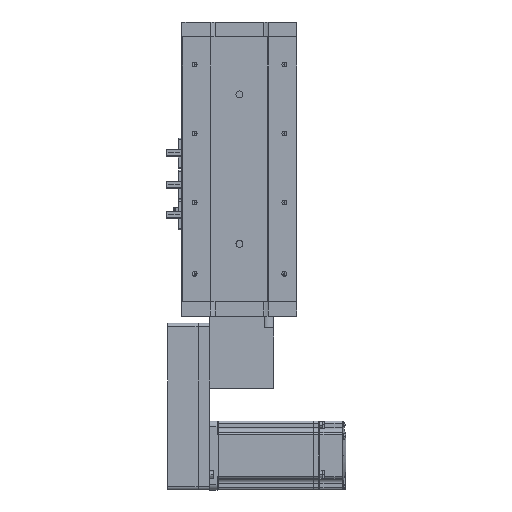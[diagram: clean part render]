
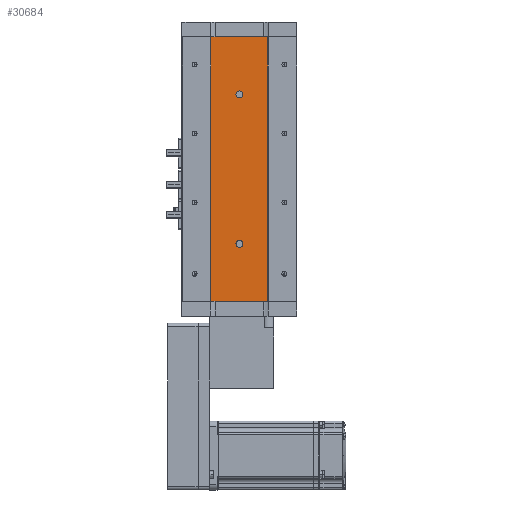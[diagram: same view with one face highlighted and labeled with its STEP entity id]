
A CAD part, left-side view. The second image highlights one B-rep face of the part: STEP entity #30684.
In plain terms, the highlighted planar face has unit normal (-1, 0, 0).
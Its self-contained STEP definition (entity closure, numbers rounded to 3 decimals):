
#1759 = PLANE ( 'NONE',  #56936 ) ;
#2526 = VECTOR ( 'NONE', #28652, 1000. ) ;
#2783 = EDGE_CURVE ( 'NONE', #11221, #6771, #55354, .T. ) ;
#3345 = ORIENTED_EDGE ( 'NONE', *, *, #48417, .F. ) ;
#4174 = CIRCLE ( 'NONE', #21252, 3. ) ;
#5185 = EDGE_CURVE ( 'NONE', #6771, #11221, #38597, .T. ) ;
#5368 = AXIS2_PLACEMENT_3D ( 'NONE', #50318, #22449, #55007 ) ;
#5435 = DIRECTION ( 'NONE',  ( 0., -1., 0. ) ) ;
#6326 = AXIS2_PLACEMENT_3D ( 'NONE', #22890, #55443, #27596 ) ;
#6771 = VERTEX_POINT ( 'NONE', #38582 ) ;
#7185 = CARTESIAN_POINT ( 'NONE',  ( -18.926, 0., 183. ) ) ;
#7893 = ORIENTED_EDGE ( 'NONE', *, *, #19644, .F. ) ;
#8590 = ORIENTED_EDGE ( 'NONE', *, *, #31290, .T. ) ;
#8874 = ORIENTED_EDGE ( 'NONE', *, *, #5185, .F. ) ;
#11195 = EDGE_LOOP ( 'NONE', ( #7893, #59515 ) ) ;
#11221 = VERTEX_POINT ( 'NONE', #7185 ) ;
#12269 = ORIENTED_EDGE ( 'NONE', *, *, #2783, .F. ) ;
#14948 = CARTESIAN_POINT ( 'NONE',  ( -18.926, 24.785, 230. ) ) ;
#15080 = EDGE_CURVE ( 'NONE', #59934, #36744, #32134, .T. ) ;
#16135 = LINE ( 'NONE', #33280, #40896 ) ;
#16743 = CIRCLE ( 'NONE', #26181, 3. ) ;
#17308 = EDGE_LOOP ( 'NONE', ( #12269, #8874 ) ) ;
#18518 = FACE_BOUND ( 'NONE', #11195, .T. ) ;
#19644 = EDGE_CURVE ( 'NONE', #27670, #28917, #4174, .T. ) ;
#20564 = VECTOR ( 'NONE', #30089, 1000. ) ;
#20942 = EDGE_LOOP ( 'NONE', ( #35348, #3345, #24431, #8590 ) ) ;
#21252 = AXIS2_PLACEMENT_3D ( 'NONE', #49325, #21390, #53990 ) ;
#21390 = DIRECTION ( 'NONE',  ( -1., 0., 0. ) ) ;
#22449 = DIRECTION ( 'NONE',  ( -1., 0., 0. ) ) ;
#22890 = CARTESIAN_POINT ( 'NONE',  ( -18.926, 0., 180. ) ) ;
#23075 = CARTESIAN_POINT ( 'NONE',  ( -18.926, 0., 47. ) ) ;
#23787 = CARTESIAN_POINT ( 'NONE',  ( -18.926, 0., 50. ) ) ;
#24431 = ORIENTED_EDGE ( 'NONE', *, *, #15080, .F. ) ;
#25083 = EDGE_CURVE ( 'NONE', #28917, #27670, #16743, .T. ) ;
#25101 = DIRECTION ( 'NONE',  ( 1., 0., 0. ) ) ;
#25237 = VERTEX_POINT ( 'NONE', #39015 ) ;
#26181 = AXIS2_PLACEMENT_3D ( 'NONE', #23787, #56335, #28456 ) ;
#27596 = DIRECTION ( 'NONE',  ( 0., 0., 1. ) ) ;
#27670 = VERTEX_POINT ( 'NONE', #45774 ) ;
#28456 = DIRECTION ( 'NONE',  ( 0., 0., 1. ) ) ;
#28652 = DIRECTION ( 'NONE',  ( 0., 0., -1. ) ) ;
#28917 = VERTEX_POINT ( 'NONE', #23075 ) ;
#30089 = DIRECTION ( 'NONE',  ( 0., 0., -1. ) ) ;
#30484 = CARTESIAN_POINT ( 'NONE',  ( -18.926, -24.785, 230. ) ) ;
#30684 = ADVANCED_FACE ( 'NONE', ( #18518, #41841, #54248 ), #1759, .F. ) ;
#31290 = EDGE_CURVE ( 'NONE', #59934, #45937, #32956, .T. ) ;
#32134 = LINE ( 'NONE', #56192, #52555 ) ;
#32956 = LINE ( 'NONE', #34746, #20564 ) ;
#32987 = DIRECTION ( 'NONE',  ( 0., -1., 0. ) ) ;
#33280 = CARTESIAN_POINT ( 'NONE',  ( -18.926, 24.785, 0. ) ) ;
#34746 = CARTESIAN_POINT ( 'NONE',  ( -18.926, 24.785, 230. ) ) ;
#35348 = ORIENTED_EDGE ( 'NONE', *, *, #52620, .T. ) ;
#36744 = VERTEX_POINT ( 'NONE', #30484 ) ;
#38582 = CARTESIAN_POINT ( 'NONE',  ( -18.926, 0., 177. ) ) ;
#38597 = CIRCLE ( 'NONE', #5368, 3. ) ;
#39015 = CARTESIAN_POINT ( 'NONE',  ( -18.926, -24.785, 0. ) ) ;
#39575 = LINE ( 'NONE', #47188, #2526 ) ;
#40896 = VECTOR ( 'NONE', #5435, 1000. ) ;
#41841 = FACE_BOUND ( 'NONE', #17308, .T. ) ;
#45774 = CARTESIAN_POINT ( 'NONE',  ( -18.926, 0., 53. ) ) ;
#45937 = VERTEX_POINT ( 'NONE', #53704 ) ;
#47188 = CARTESIAN_POINT ( 'NONE',  ( -18.926, -24.785, 230. ) ) ;
#48417 = EDGE_CURVE ( 'NONE', #36744, #25237, #39575, .T. ) ;
#49325 = CARTESIAN_POINT ( 'NONE',  ( -18.926, 0., 50. ) ) ;
#50318 = CARTESIAN_POINT ( 'NONE',  ( -18.926, 0., 180. ) ) ;
#52555 = VECTOR ( 'NONE', #32987, 1000. ) ;
#52620 = EDGE_CURVE ( 'NONE', #45937, #25237, #16135, .T. ) ;
#52985 = CARTESIAN_POINT ( 'NONE',  ( -18.926, 24.785, 230. ) ) ;
#53704 = CARTESIAN_POINT ( 'NONE',  ( -18.926, 24.785, 0. ) ) ;
#53990 = DIRECTION ( 'NONE',  ( 0., 0., 1. ) ) ;
#54248 = FACE_OUTER_BOUND ( 'NONE', #20942, .T. ) ;
#55007 = DIRECTION ( 'NONE',  ( 0., 0., 1. ) ) ;
#55354 = CIRCLE ( 'NONE', #6326, 3. ) ;
#55443 = DIRECTION ( 'NONE',  ( -1., 0., 0. ) ) ;
#56192 = CARTESIAN_POINT ( 'NONE',  ( -18.926, 24.785, 230. ) ) ;
#56335 = DIRECTION ( 'NONE',  ( -1., 0., 0. ) ) ;
#56936 = AXIS2_PLACEMENT_3D ( 'NONE', #52985, #25101, #57617 ) ;
#57617 = DIRECTION ( 'NONE',  ( 0., 0., -1. ) ) ;
#59515 = ORIENTED_EDGE ( 'NONE', *, *, #25083, .F. ) ;
#59934 = VERTEX_POINT ( 'NONE', #14948 ) ;
